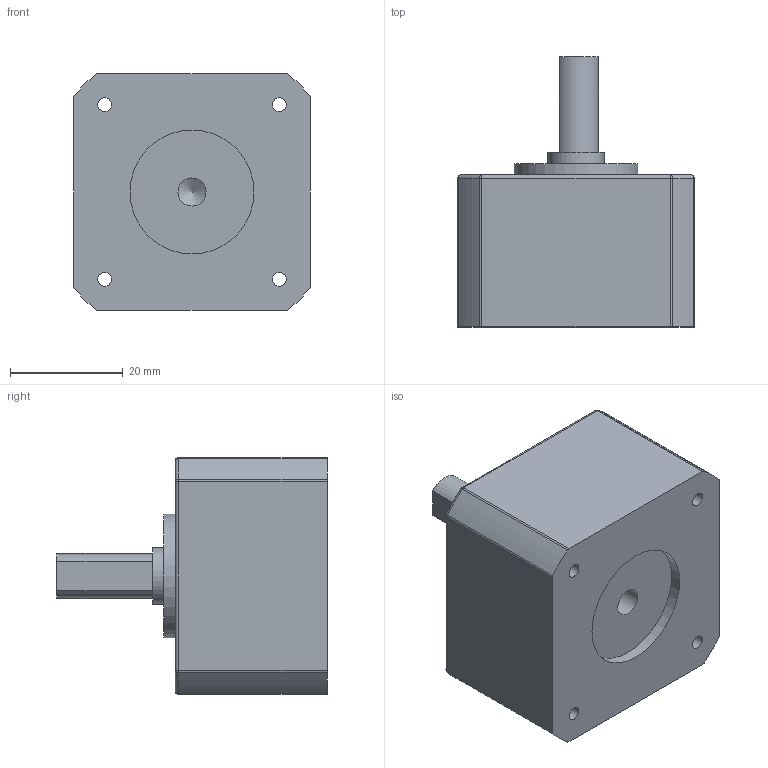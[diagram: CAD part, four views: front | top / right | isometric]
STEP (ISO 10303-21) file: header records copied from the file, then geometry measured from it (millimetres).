
FILE_DESCRIPTION(/* description */ ('','CAx-IF Rec.Pracs.---Representation and Presentation of Product Manufacturing Information (PMI)---4.0---2014-10-13'),/* implementation_level */ '2;1');
FILE_NAME(/* name */ 'riduttore ciccloidale TS42 15-1.stp',/* time_stamp */ '2026-03-20T18:12:22+01:00',/* author */ ('R5800u'),/* organization */ (''),/* preprocessor_version */ 'ST-DEVELOPER v20',/* originating_system */ 'Autodesk Inventor 2025',/* authorisation */ '');
FILE_SCHEMA (('AP242_MANAGED_MODEL_BASED_3D_ENGINEERING_MIM_LF { 1 0 10303 442 1 1 4 }'));
Length unit declared in the file: millimetre
Products named in the file (1): riduttore ciccloidale TS42 15-1
Bounding box: 42 x 48 x 42 mm (x, y, z)
Volume: 46211 mm3; surface area: 10153.1 mm2
Topology: 1 solids, 1 shells, 67 faces, 141 edges, 84 vertices
Faces by surface type: cylinder 34, plane 15, sphere 8, cone 6, torus 4
Full cylindrical faces by diameter (mm): 2.459 x5, 3.242 x4, 5 x1, 6 x4, 10 x1, 22 x2
Entity records: 2682 total; most frequent: DIRECTION 419, CARTESIAN_POINT 376, ORIENTED_EDGE 270, AXIS2_PLACEMENT_3D 182, EDGE_CURVE 135, COORDINATES_LIST 99, CIRCLE 93, EDGE_LOOP 89
